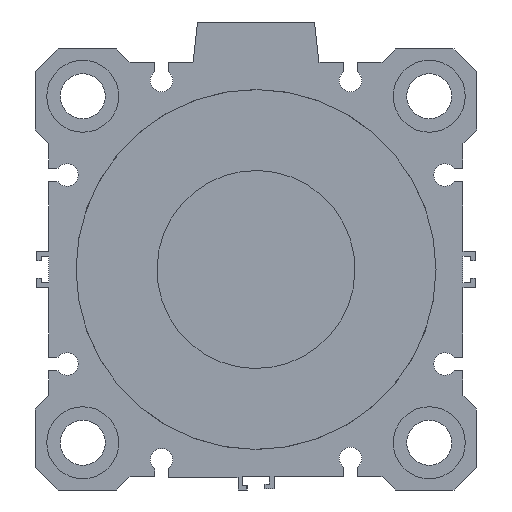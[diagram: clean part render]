
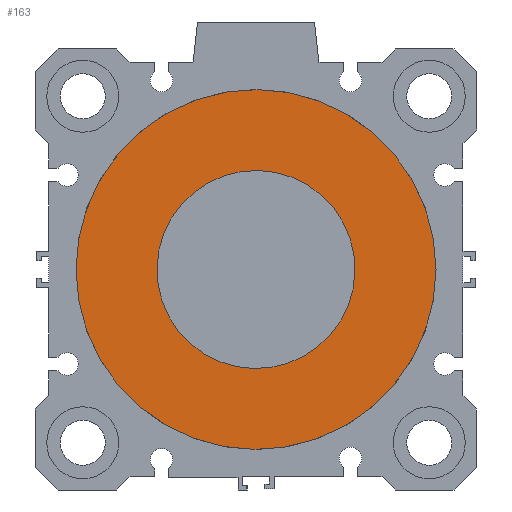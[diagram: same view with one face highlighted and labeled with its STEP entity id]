
A CAD part, left-side view. The second image highlights one B-rep face of the part: STEP entity #163.
In plain terms, the highlighted planar face has unit normal (-1, 0, 0).
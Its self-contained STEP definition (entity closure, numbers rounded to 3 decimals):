
#81=CARTESIAN_POINT('Vertex',(5.,10.547,19.307)) ;
#84=CARTESIAN_POINT('Axis2P3D Location',(5.,0.,0.)) ;
#88=CARTESIAN_POINT('Vertex',(5.,-10.547,-19.307)) ;
#108=CARTESIAN_POINT('Axis2P3D Location',(5.,0.,0.)) ;
#120=CARTESIAN_POINT('Axis2P3D Location',(5.,0.,40.)) ;
#125=CARTESIAN_POINT('Axis2P3D Location',(5.,0.,0.)) ;
#129=CARTESIAN_POINT('Vertex',(5.,-19.177,-35.103)) ;
#131=CARTESIAN_POINT('Vertex',(5.,-40.,0.)) ;
#134=CARTESIAN_POINT('Axis2P3D Location',(5.,0.,0.)) ;
#138=CARTESIAN_POINT('Vertex',(5.,19.177,35.103)) ;
#141=CARTESIAN_POINT('Axis2P3D Location',(5.,0.,0.)) ;
#145=CARTESIAN_POINT('Vertex',(5.,40.,0.)) ;
#148=CARTESIAN_POINT('Axis2P3D Location',(5.,0.,0.)) ;
#85=DIRECTION('Axis2P3D Direction',(-1.,0.,0.)) ;
#109=DIRECTION('Axis2P3D Direction',(-1.,0.,0.)) ;
#121=DIRECTION('Axis2P3D Direction',(-1.,0.,0.)) ;
#122=DIRECTION('Axis2P3D XDirection',(0.,1.,0.)) ;
#126=DIRECTION('Axis2P3D Direction',(-1.,0.,0.)) ;
#135=DIRECTION('Axis2P3D Direction',(-1.,0.,0.)) ;
#142=DIRECTION('Axis2P3D Direction',(-1.,0.,0.)) ;
#149=DIRECTION('Axis2P3D Direction',(-1.,0.,0.)) ;
#86=AXIS2_PLACEMENT_3D('Circle Axis2P3D',#84,#85,$) ;
#110=AXIS2_PLACEMENT_3D('Circle Axis2P3D',#108,#109,$) ;
#123=AXIS2_PLACEMENT_3D('Plane Axis2P3D',#120,#121,#122) ;
#127=AXIS2_PLACEMENT_3D('Circle Axis2P3D',#125,#126,$) ;
#136=AXIS2_PLACEMENT_3D('Circle Axis2P3D',#134,#135,$) ;
#143=AXIS2_PLACEMENT_3D('Circle Axis2P3D',#141,#142,$) ;
#150=AXIS2_PLACEMENT_3D('Circle Axis2P3D',#148,#149,$) ;
#154=ORIENTED_EDGE('',*,*,#133,.T.) ;
#155=ORIENTED_EDGE('',*,*,#140,.T.) ;
#156=ORIENTED_EDGE('',*,*,#147,.T.) ;
#157=ORIENTED_EDGE('',*,*,#152,.T.) ;
#160=ORIENTED_EDGE('',*,*,#90,.F.) ;
#161=ORIENTED_EDGE('',*,*,#112,.F.) ;
#162=FACE_BOUND('',#159,.T.) ;
#163=ADVANCED_FACE('PartBody',(#158,#162),#124,.T.) ;
#87=CIRCLE('generated circle',#86,22.) ;
#111=CIRCLE('generated circle',#110,22.) ;
#128=CIRCLE('generated circle',#127,40.) ;
#137=CIRCLE('generated circle',#136,40.) ;
#144=CIRCLE('generated circle',#143,40.) ;
#151=CIRCLE('generated circle',#150,40.) ;
#90=EDGE_CURVE('',#82,#89,#87,.T.) ;
#112=EDGE_CURVE('',#89,#82,#111,.T.) ;
#133=EDGE_CURVE('',#130,#132,#128,.T.) ;
#140=EDGE_CURVE('',#132,#139,#137,.T.) ;
#147=EDGE_CURVE('',#139,#146,#144,.T.) ;
#152=EDGE_CURVE('',#146,#130,#151,.T.) ;
#153=EDGE_LOOP('',(#154,#155,#156,#157)) ;
#159=EDGE_LOOP('',(#160,#161)) ;
#158=FACE_OUTER_BOUND('',#153,.T.) ;
#124=PLANE('',#123) ;
#82=VERTEX_POINT('',#81) ;
#89=VERTEX_POINT('',#88) ;
#130=VERTEX_POINT('',#129) ;
#132=VERTEX_POINT('',#131) ;
#139=VERTEX_POINT('',#138) ;
#146=VERTEX_POINT('',#145) ;
